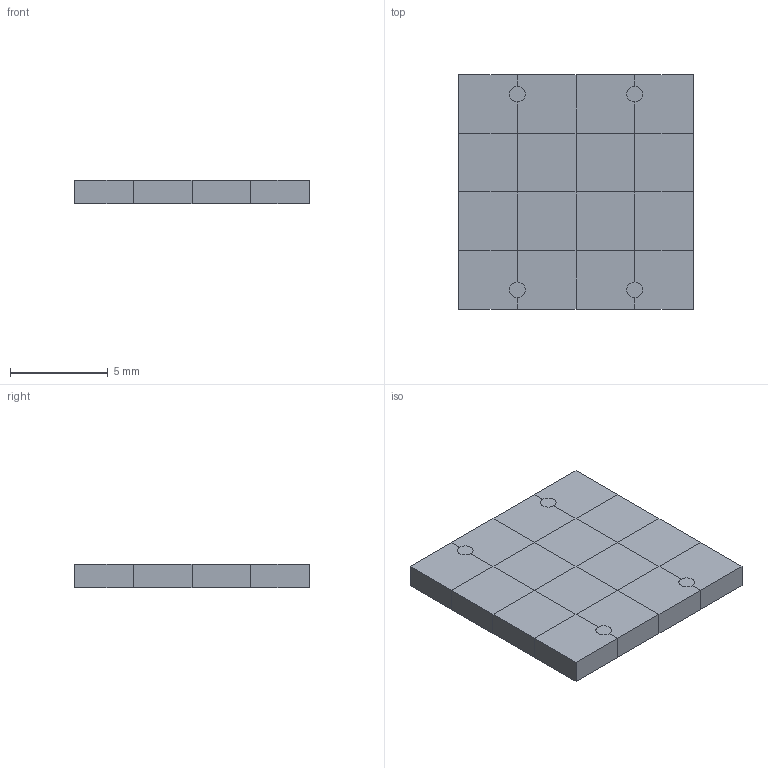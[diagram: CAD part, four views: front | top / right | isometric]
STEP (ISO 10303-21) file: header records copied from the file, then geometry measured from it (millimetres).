
FILE_DESCRIPTION(('Open CASCADE Model'),'2;1');
FILE_NAME('Open CASCADE Shape Model','2026-11-20T13:00:16',('Author'),( 'Open CASCADE'),'Open CASCADE STEP processor 7.9','Open CASCADE 7.9' ,'Unknown');
FILE_SCHEMA(('AUTOMOTIVE_DESIGN { 1 0 10303 214 1 1 1 1 }'));
Length unit declared in the file: millimetre
Products named in the file (3): manifold_AD_41-42_3; fluid; solid
Assembly tree (2 placements, depth 2):
  manifold_AD_41-42_3
    fluid
    solid
Bounding box: 12 x 12 x 1.2 mm (x, y, z)
Volume: 172.8 mm3; surface area: 1525.4 mm2
Topology: 2 solids, 2 shells, 1652 faces, 6060 edges, 3306 vertices
Faces by surface type: plane 1644, cylinder 8
Full cylindrical faces by diameter (mm): 0.8 x8
Entity records: 141262 total; most frequent: CARTESIAN_POINT 23189, DIRECTION 21506, LINE 18132, VECTOR 18132, ORIENTED_EDGE 12120, PCURVE 12120, DEFINITIONAL_REPRESENTATION 12120, EDGE_CURVE 6060
